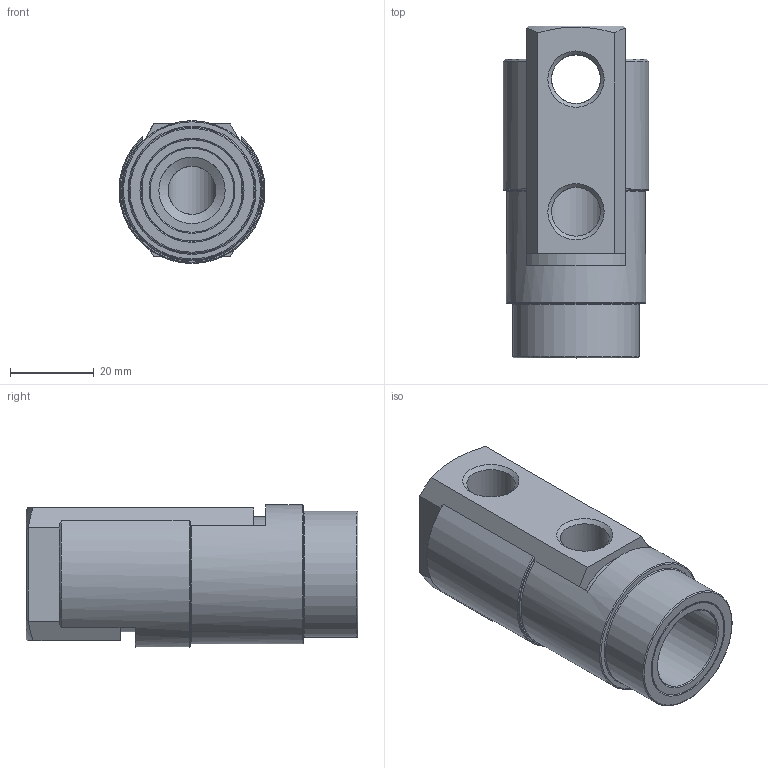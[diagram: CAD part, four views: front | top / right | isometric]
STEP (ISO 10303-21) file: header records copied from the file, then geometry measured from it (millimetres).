
FILE_DESCRIPTION(/* description */ (''),/* implementation_level */ '2;1');
FILE_NAME(/* name */ 'C:/Users/drich/Desktop/SC121H-4 v1.step',/* time_stamp */ '2020-01-04T15:14:59-06:00',/* author */ (''),/* organization */ (''),/* preprocessor_version */ 'ST-DEVELOPER v18',/* originating_system */ 'Autodesk Translation Framework v8.12.0.6',/* authorisation */ '');
FILE_SCHEMA (('AUTOMOTIVE_DESIGN { 1 0 10303 214 3 1 1 }'));
Length unit declared in the file: inch
Products named in the file (3): SC121H-4; SC121H-4 HEAD; SC121H-4 Sleeve
Assembly tree (2 placements, depth 2):
  SC121H-4
    SC121H-4 HEAD
    SC121H-4 Sleeve
Bounding box: 34.92 x 79.38 x 34.12 mm (x, y, z)
Volume: 46537.1 mm3; surface area: 24215.9 mm2
Topology: 2 solids, 2 shells, 60 faces, 175 edges, 120 vertices
Faces by surface type: plane 30, cylinder 15, cone 9, torus 6
Full cylindrical faces by diameter (mm): 11.468 x1, 11.668 x2, 15.875 x1, 20.066 x1, 24.384 x1, 27.432 x1, 30.15 x1, 33.325 x1
Entity records: 2239 total; most frequent: CARTESIAN_POINT 517, DIRECTION 355, ORIENTED_EDGE 350, EDGE_CURVE 175, AXIS2_PLACEMENT_3D 138, VERTEX_POINT 120, LINE 79, VECTOR 79
